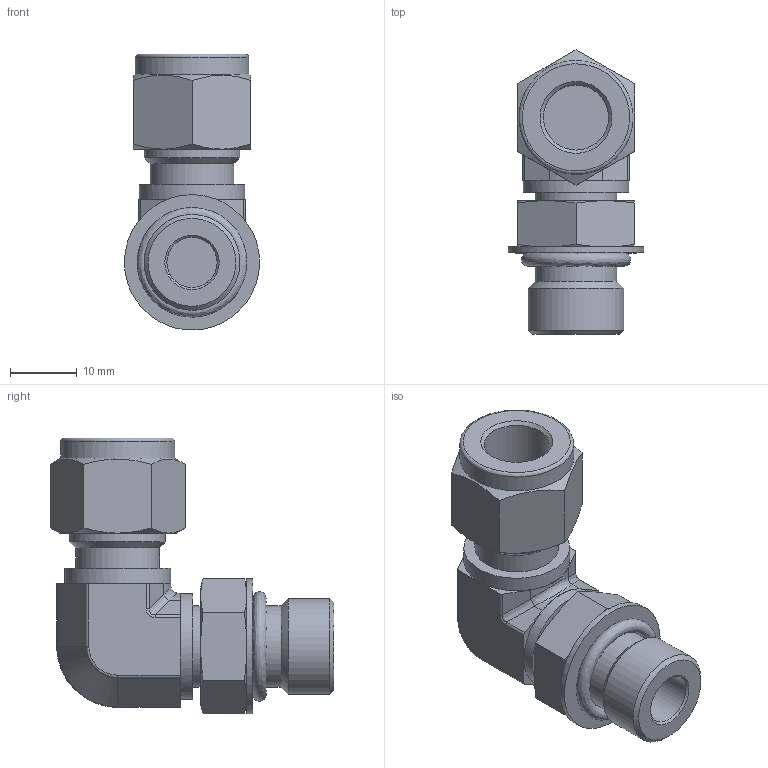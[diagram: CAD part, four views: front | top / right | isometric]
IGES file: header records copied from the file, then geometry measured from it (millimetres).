
Global section: file name: SPME-6-6U; native system: Autodesk Inventor 2016; preprocessor: unknown; author: DESIGNPC2; date: 20160119.093248; units: millimetre
Bounding box: 20.2 x 42.4 x 41.2 mm (x, y, z)
Volume: 11131.9 mm3; surface area: 6553 mm2
Topology: 4 solids, 4 shells, 115 faces, 274 edges, 176 vertices
Faces by surface type: bspline 115
